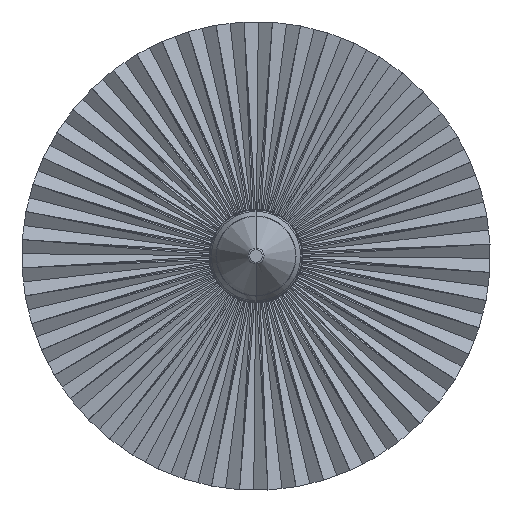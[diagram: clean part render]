
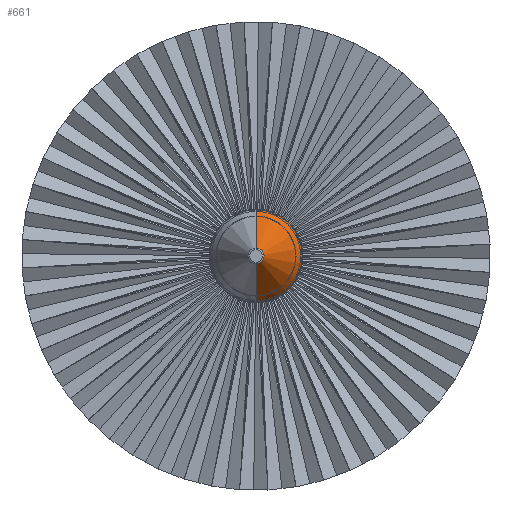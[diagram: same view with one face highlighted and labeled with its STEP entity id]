
A CAD part, front view. The second image highlights one B-rep face of the part: STEP entity #661.
In plain terms, the highlighted conical face has half-angle 27.699 degrees and reference radius 50 mm.
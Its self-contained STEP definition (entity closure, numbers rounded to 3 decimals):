
#661 = ADVANCED_FACE ( 'NONE', ( #33800 ), #12527, .T. ) ;
#665 = DIRECTION ( 'NONE',  ( 0., -1., 0. ) ) ;
#1106 = DIRECTION ( 'NONE',  ( 0., 0.885, -0.465 ) ) ;
#2378 = AXIS2_PLACEMENT_3D ( 'NONE', #6703, #665, #20161 ) ;
#3333 = DIRECTION ( 'NONE',  ( 0., 1., 0. ) ) ;
#5556 = EDGE_CURVE ( 'NONE', #12852, #33689, #28680, .T. ) ;
#6703 = CARTESIAN_POINT ( 'NONE',  ( -36.437, -794.158, 0. ) ) ;
#8211 = VERTEX_POINT ( 'NONE', #22444 ) ;
#8258 = AXIS2_PLACEMENT_3D ( 'NONE', #14199, #17687, #23326 ) ;
#8872 = EDGE_CURVE ( 'NONE', #8211, #12852, #23547, .T. ) ;
#9783 = DIRECTION ( 'NONE',  ( 0., 0.885, 0.465 ) ) ;
#10323 = ORIENTED_EDGE ( 'NONE', *, *, #5556, .T. ) ;
#10478 = EDGE_LOOP ( 'NONE', ( #29196, #10323, #26639, #27769 ) ) ;
#12527 = CONICAL_SURFACE ( 'NONE', #8258, 50., 0.483 ) ;
#12852 = VERTEX_POINT ( 'NONE', #17627 ) ;
#13885 = EDGE_CURVE ( 'NONE', #8211, #14221, #19687, .T. ) ;
#14199 = CARTESIAN_POINT ( 'NONE',  ( -36.437, -793.425, 0. ) ) ;
#14221 = VERTEX_POINT ( 'NONE', #30807 ) ;
#15173 = VECTOR ( 'NONE', #1106, 1000. ) ;
#17122 = CARTESIAN_POINT ( 'NONE',  ( -36.437, -794.158, -49.615 ) ) ;
#17599 = DIRECTION ( 'NONE',  ( 0., 0., -1. ) ) ;
#17627 = CARTESIAN_POINT ( 'NONE',  ( -36.437, -872.355, -8.562 ) ) ;
#17687 = DIRECTION ( 'NONE',  ( 0., 1., 0. ) ) ;
#19687 = LINE ( 'NONE', #32013, #27128 ) ;
#19928 = CARTESIAN_POINT ( 'NONE',  ( -36.437, -872.355, 0. ) ) ;
#20161 = DIRECTION ( 'NONE',  ( 0., 0., -1. ) ) ;
#21590 = EDGE_CURVE ( 'NONE', #33689, #14221, #35633, .T. ) ;
#22444 = CARTESIAN_POINT ( 'NONE',  ( -36.437, -872.355, 8.562 ) ) ;
#23326 = DIRECTION ( 'NONE',  ( 0., 0., 1. ) ) ;
#23547 = CIRCLE ( 'NONE', #24737, 8.562 ) ;
#24737 = AXIS2_PLACEMENT_3D ( 'NONE', #19928, #3333, #17599 ) ;
#26639 = ORIENTED_EDGE ( 'NONE', *, *, #21590, .T. ) ;
#27128 = VECTOR ( 'NONE', #9783, 1000. ) ;
#27769 = ORIENTED_EDGE ( 'NONE', *, *, #13885, .F. ) ;
#28680 = LINE ( 'NONE', #31102, #15173 ) ;
#29196 = ORIENTED_EDGE ( 'NONE', *, *, #8872, .T. ) ;
#30807 = CARTESIAN_POINT ( 'NONE',  ( -36.437, -794.158, 49.615 ) ) ;
#31102 = CARTESIAN_POINT ( 'NONE',  ( -36.437, -793.425, -50. ) ) ;
#32013 = CARTESIAN_POINT ( 'NONE',  ( -36.437, -793.425, 50. ) ) ;
#33689 = VERTEX_POINT ( 'NONE', #17122 ) ;
#33800 = FACE_OUTER_BOUND ( 'NONE', #10478, .T. ) ;
#35633 = CIRCLE ( 'NONE', #2378, 49.615 ) ;
